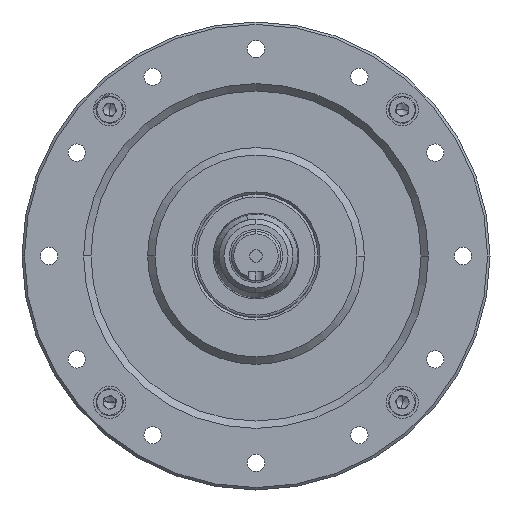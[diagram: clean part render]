
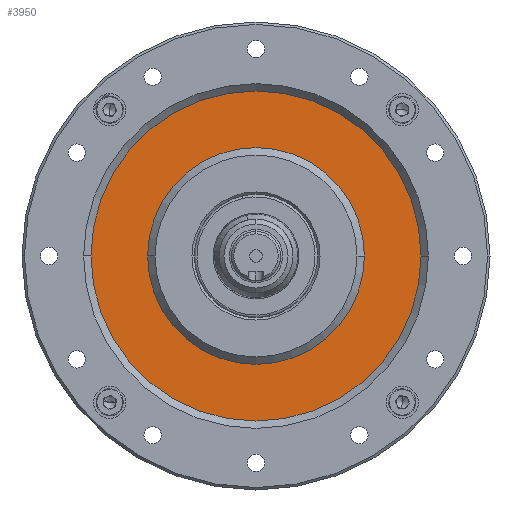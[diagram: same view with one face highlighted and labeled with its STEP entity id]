
A CAD part, front view. The second image highlights one B-rep face of the part: STEP entity #3950.
In plain terms, the highlighted planar face has unit normal (0, -1, 0).
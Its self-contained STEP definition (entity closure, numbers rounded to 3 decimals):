
#325 = VERTEX_POINT ( 'NONE', #2540 ) ;
#704 = VERTEX_POINT ( 'NONE', #1982 ) ;
#813 = CARTESIAN_POINT ( 'NONE',  ( 0.994, -13.958, 90. ) ) ;
#829 = CARTESIAN_POINT ( 'NONE',  ( 0.994, -13.958, 90. ) ) ;
#837 = DIRECTION ( 'NONE',  ( 0., -1., 0. ) ) ;
#866 = DIRECTION ( 'NONE',  ( 0., 1., 0. ) ) ;
#901 = DIRECTION ( 'NONE',  ( 1., 0., 0. ) ) ;
#1293 = DIRECTION ( 'NONE',  ( 1., 0., 0. ) ) ;
#1299 = CIRCLE ( 'NONE', #8411, 33.5 ) ;
#1328 = CIRCLE ( 'NONE', #2380, 33.5 ) ;
#1894 = ORIENTED_EDGE ( 'NONE', *, *, #7389, .T. ) ;
#1982 = CARTESIAN_POINT ( 'NONE',  ( -21.006, -13.958, 90. ) ) ;
#2053 = AXIS2_PLACEMENT_3D ( 'NONE', #829, #866, #901 ) ;
#2329 = ORIENTED_EDGE ( 'NONE', *, *, #6567, .T. ) ;
#2380 = AXIS2_PLACEMENT_3D ( 'NONE', #3851, #3879, #3914 ) ;
#2489 = CARTESIAN_POINT ( 'NONE',  ( 0.994, -13.958, 90. ) ) ;
#2540 = CARTESIAN_POINT ( 'NONE',  ( 34.494, -13.958, 90. ) ) ;
#2744 = DIRECTION ( 'NONE',  ( 0., -1., 0. ) ) ;
#2747 = EDGE_LOOP ( 'NONE', ( #7262, #5088 ) ) ;
#2780 = DIRECTION ( 'NONE',  ( 1., 0., 0. ) ) ;
#2982 = AXIS2_PLACEMENT_3D ( 'NONE', #5536, #5612, #5638 ) ;
#3541 = EDGE_LOOP ( 'NONE', ( #1894, #2329 ) ) ;
#3577 = VERTEX_POINT ( 'NONE', #4604 ) ;
#3681 = PLANE ( 'NONE',  #4646 ) ;
#3851 = CARTESIAN_POINT ( 'NONE',  ( 0.994, -13.958, 90. ) ) ;
#3879 = DIRECTION ( 'NONE',  ( 0., -1., 0. ) ) ;
#3914 = DIRECTION ( 'NONE',  ( 1., 0., 0. ) ) ;
#3950 = ADVANCED_FACE ( 'NONE', ( #7254, #7354 ), #3681, .T. ) ;
#4384 = EDGE_CURVE ( 'NONE', #3577, #704, #9027, .T. ) ;
#4604 = CARTESIAN_POINT ( 'NONE',  ( 22.994, -13.958, 90. ) ) ;
#4646 = AXIS2_PLACEMENT_3D ( 'NONE', #2489, #2744, #2780 ) ;
#5088 = ORIENTED_EDGE ( 'NONE', *, *, #4384, .T. ) ;
#5536 = CARTESIAN_POINT ( 'NONE',  ( 0.994, -13.958, 90. ) ) ;
#5612 = DIRECTION ( 'NONE',  ( 0., 1., 0. ) ) ;
#5638 = DIRECTION ( 'NONE',  ( 1., 0., 0. ) ) ;
#6567 = EDGE_CURVE ( 'NONE', #8921, #325, #1299, .T. ) ;
#7254 = FACE_BOUND ( 'NONE', #2747, .T. ) ;
#7262 = ORIENTED_EDGE ( 'NONE', *, *, #7352, .T. ) ;
#7352 = EDGE_CURVE ( 'NONE', #704, #3577, #8608, .T. ) ;
#7354 = FACE_OUTER_BOUND ( 'NONE', #3541, .T. ) ;
#7389 = EDGE_CURVE ( 'NONE', #325, #8921, #1328, .T. ) ;
#8411 = AXIS2_PLACEMENT_3D ( 'NONE', #813, #837, #1293 ) ;
#8456 = CARTESIAN_POINT ( 'NONE',  ( -32.506, -13.958, 90. ) ) ;
#8608 = CIRCLE ( 'NONE', #2053, 22. ) ;
#8921 = VERTEX_POINT ( 'NONE', #8456 ) ;
#9027 = CIRCLE ( 'NONE', #2982, 22. ) ;
